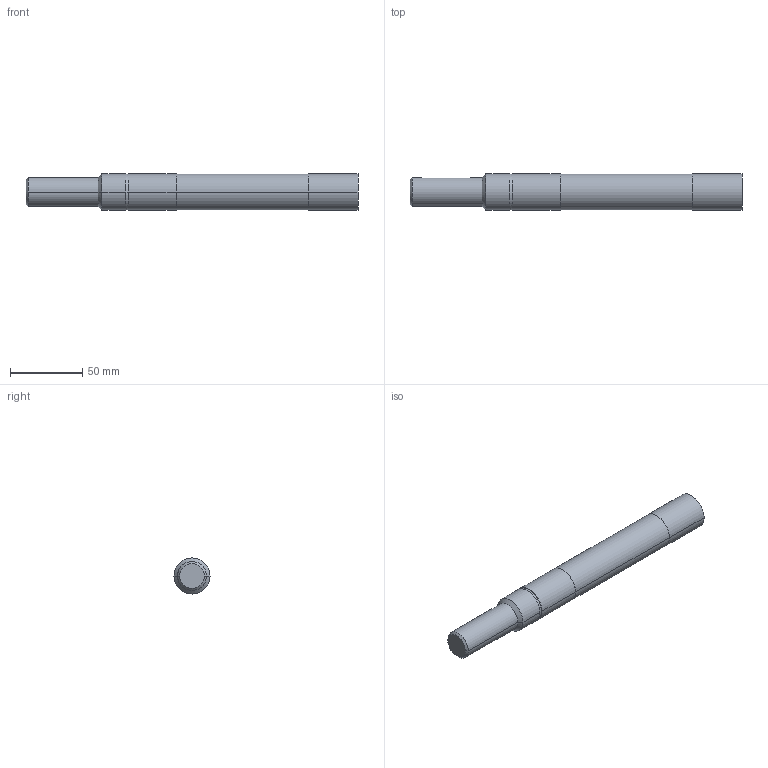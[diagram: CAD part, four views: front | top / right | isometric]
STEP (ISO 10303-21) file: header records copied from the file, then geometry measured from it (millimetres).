
FILE_DESCRIPTION (( 'STEP AP203' ), '1' );
FILE_NAME ('S4-25.STEP', '2002-08-16T10:50:16', ( '.' ), ( '.' ), 'SwSTEP 2.0', 'SolidWorks 2001340', '' );
FILE_SCHEMA (( 'CONFIG_CONTROL_DESIGN' ));
Length unit declared in the file: millimetre
Products named in the file (1): S4-25
Bounding box: 230 x 25 x 25 mm (x, y, z)
Volume: 102318 mm3; surface area: 18325.2 mm2
Topology: 1 solids, 1 shells, 26 faces, 55 edges, 34 vertices
Faces by surface type: cylinder 12, plane 8, cone 6
Entity records: 834 total; most frequent: CARTESIAN_POINT 180, DIRECTION 131, ORIENTED_EDGE 110, EDGE_CURVE 55, AXIS2_PLACEMENT_3D 53, VERTEX_POINT 34, EDGE_LOOP 29, ADVANCED_FACE 26
